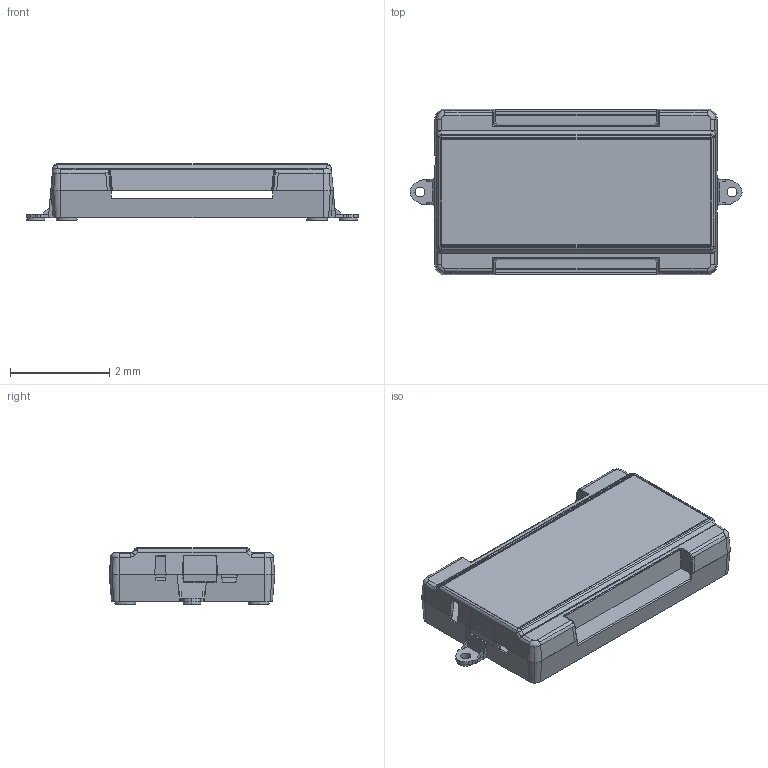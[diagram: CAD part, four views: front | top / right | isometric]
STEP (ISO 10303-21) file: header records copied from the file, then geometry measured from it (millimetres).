
FILE_DESCRIPTION(('STEP AP214'),'1');
FILE_NAME('F:/Drawings/DI-2008 box with panel/tmp0.stp','2018-06-01T11:49:51',(' '),(' '),'Spatial InterOp 3D',' ',' ');
FILE_SCHEMA(('automotive_design'));
Length unit declared in the file: inch
Products named in the file (3): 1; 2; 3
Bounding box: 6.71 x 3.35 x 1.15 mm (x, y, z)
Volume: 4.1 mm3; surface area: 110.8 mm2
Topology: 3 solids, 3 shells, 813 faces, 2183 edges, 1397 vertices
Faces by surface type: plane 280, cylinder 264, cone 200, bspline 28, torus 27, sphere 14
Entity records: 35450 total; most frequent: CARTESIAN_POINT 7907, DIRECTION 4650, ORIENTED_EDGE 4362, EDGE_CURVE 2181, AXIS2_PLACEMENT_3D 1778, VERTEX_POINT 1397, LINE 1094, VECTOR 1094
